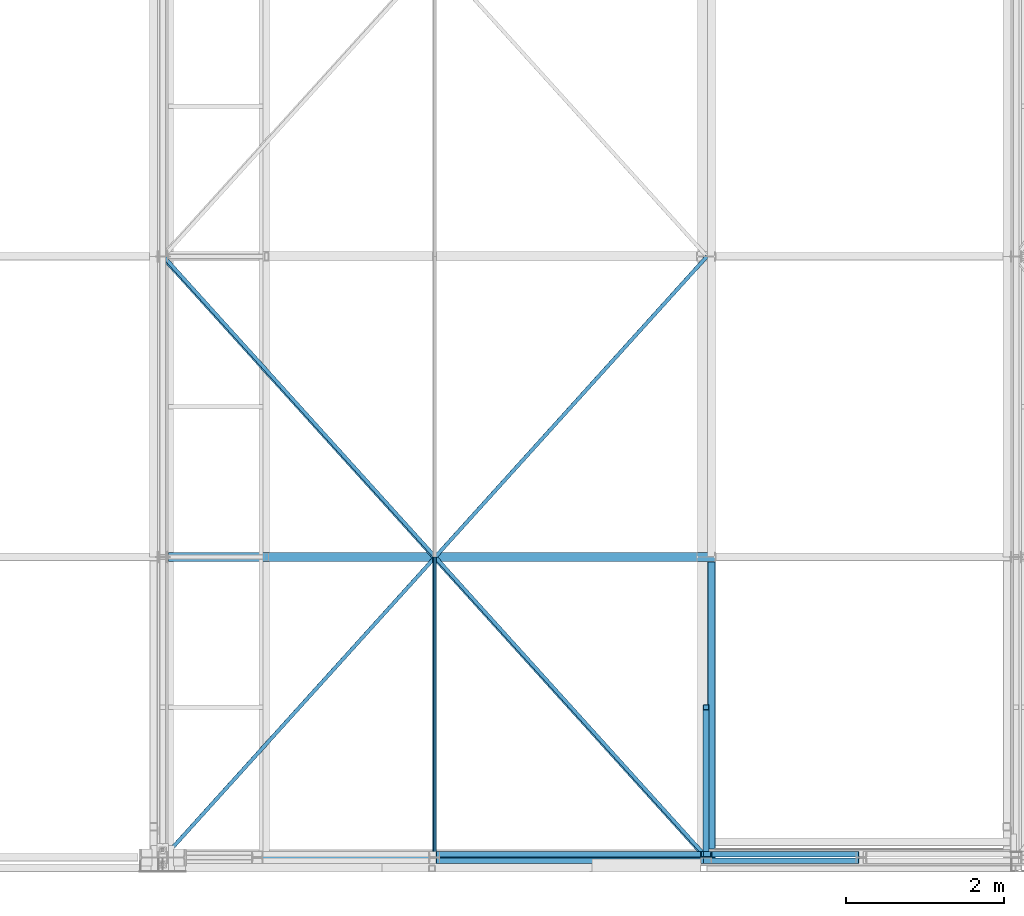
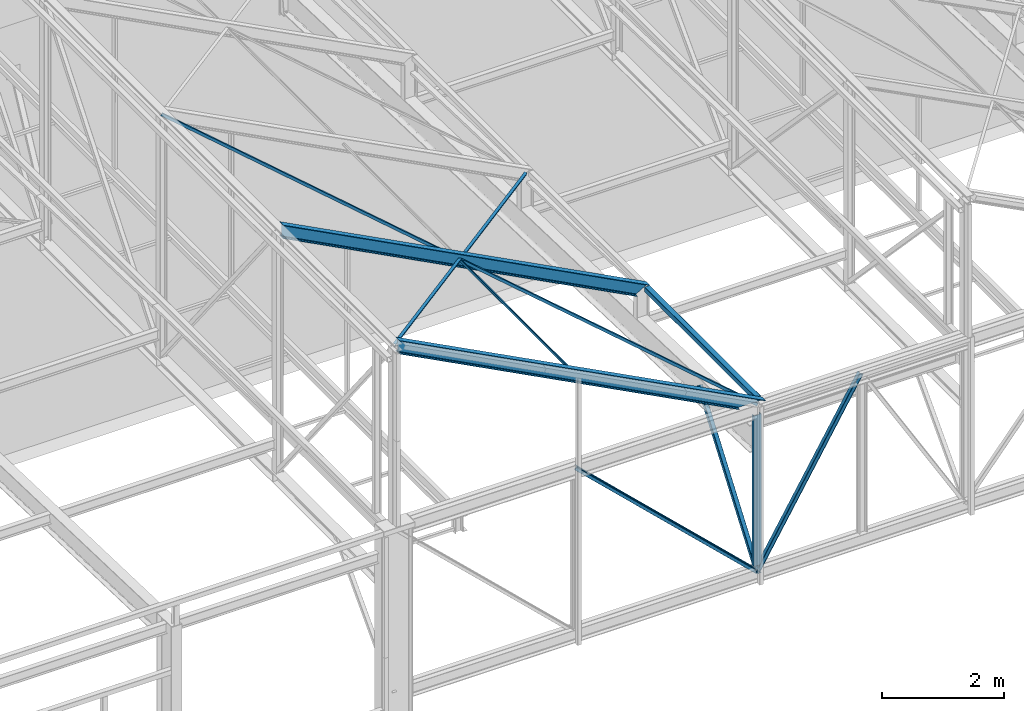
# One storey, part 29 of 123: 7 members, 5 beams, 12 elements without a shape of their own.
"""IFC2X3 building model written with IfcOpenShell, lengths in millimetres."""

from ifc_helpers import new_model, si_unit, frame, origin_with_axes, origin_2d_with_axis, place, context, subcontext, project, spatial, hollow_rectangle, i_section, l_section, u_section, extrude, clip, halfspace, material, type_object, element, aggregate, save


model = new_model("IFC2X3")

# Units and contexts
model_context = context("Model", 3, precision=1e-05, world=origin_with_axes())
body_context = subcontext(model_context, "Body", "Model", "MODEL_VIEW")
ifc_project = project(units=[si_unit("LENGTHUNIT", "METRE", prefix="MILLI"), si_unit("AREAUNIT", "SQUARE_METRE"), si_unit("VOLUMEUNIT", "CUBIC_METRE"), si_unit("MASSUNIT", "GRAM", prefix="KILO"), si_unit("TIMEUNIT", "SECOND"), si_unit("PLANEANGLEUNIT", "RADIAN"), si_unit("SOLIDANGLEUNIT", "STERADIAN"), si_unit("THERMODYNAMICTEMPERATUREUNIT", "DEGREE_CELSIUS"), si_unit("LUMINOUSINTENSITYUNIT", "LUMEN")], contexts=[model_context])

# Site, building, storey
site_placement = place(None, origin_with_axes())
site = spatial("IfcSite", under=ifc_project, at=site_placement, Name="Undefined", CompositionType="ELEMENT")
building_placement = place(site_placement, origin_with_axes())
building = spatial("IfcBuilding", under=site, at=building_placement, Name="Undefined", CompositionType="ELEMENT")
storey_placement = place(building_placement, origin_with_axes())
storey = spatial("IfcBuildingStorey", under=building, at=storey_placement, Name="Undefined", CompositionType="ELEMENT", Elevation=0.0)

# Assembly, member
assembly_1_placement = place(storey_placement, origin_with_axes())
assembly_1 = element("IfcElementAssembly", 1, at=assembly_1_placement, inside=storey, Name="Steel Assembly", AssemblyPlace="NOTDEFINED", PredefinedType="RIGID_FRAME")
ifc_material_1 = material(Name="STEEL/S235-E24")
member_type_1 = type_object("IfcMemberType", Name="L70*7", PredefinedType="NOTDEFINED")
member_1_placement = place(assembly_1_placement, frame((16114.9999999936, 40.0000000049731, 8409.99444626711), z_axis=(-0.690600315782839, 0.0, -0.723236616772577), x_axis=(0.723236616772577, 0.0, -0.690600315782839)))
member_1 = element("IfcMember", 2, at=member_1_placement, type_object=member_type_1, material=ifc_material_1, Name="DIAGONALE", ObjectType="L70*7", context=body_context, shape_type="SweptSolid", body=[
    extrude(l_section(Depth=70.0, Width=70.0, Thickness=7.0, FilletRadius=9.0, EdgeRadius=4.5, at=origin_2d_with_axis()), frame((4749.482977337, 0.0, 0.0), z_axis=(-1.0, 0.0, 0.0), x_axis=(0.0, -1.0, 0.0)), (0.0, 0.0, 1.0), 4749.5),
])
aggregate(assembly_1, [member_1])

assembly_2_placement = place(storey_placement, origin_with_axes())
assembly_2 = element("IfcElementAssembly", 3, at=assembly_2_placement, inside=storey, Name="Steel Assembly", AssemblyPlace="NOTDEFINED", PredefinedType="RIGID_FRAME")
member_2_placement = place(assembly_2_placement, frame((19550.0000008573, -40.0000000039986, 5129.99999911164), z_axis=(-0.690600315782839, 0.0, -0.723236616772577), x_axis=(-0.723236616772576, 0.0, 0.690600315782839)))
member_2 = element("IfcMember", 4, at=member_2_placement, type_object=member_type_1, material=ifc_material_1, Name="DIAGONALE", ObjectType="L70*7", context=body_context, shape_type="SweptSolid", body=[
    extrude(l_section(Depth=70.0, Width=70.0, Thickness=7.0, FilletRadius=9.0, EdgeRadius=4.5, at=origin_2d_with_axis()), frame((4749.482977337, 0.0, 0.0), z_axis=(-1.0, 0.0, 0.0), x_axis=(0.0, -1.0, 0.0)), (0.0, 0.0, 1.0), 4749.5),
])
aggregate(assembly_2, [member_2])

assembly_3_placement = place(storey_placement, origin_with_axes())
assembly_3 = element("IfcElementAssembly", 5, at=assembly_3_placement, inside=storey, Name="Steel Assembly", AssemblyPlace="NOTDEFINED", PredefinedType="RIGID_FRAME")
member_3_placement = place(assembly_3_placement, frame((19550.0000000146, 39.9999999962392, 5129.99999999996), z_axis=(0.858414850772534, 0.0, -0.512956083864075), x_axis=(0.512956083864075, 0.0, 0.858414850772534)))
member_3 = element("IfcMember", 6, at=member_3_placement, type_object=member_type_1, material=ifc_material_1, Name="DIAGONALE", ObjectType="L70*7", context=body_context, shape_type="SweptSolid", body=[
    extrude(l_section(Depth=70.0, Width=70.0, Thickness=7.0, FilletRadius=9.0, EdgeRadius=4.5, at=origin_2d_with_axis()), frame((3820.98986750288, 7.105427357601e-15, 0.0), z_axis=(-1.0, 0.0, 0.0), x_axis=(0.0, -1.0, 0.0)), (0.0, 0.0, 1.0), 3821.0),
])
aggregate(assembly_3, [member_3])

assembly_4_placement = place(storey_placement, origin_with_axes())
assembly_4 = element("IfcElementAssembly", 7, at=assembly_4_placement, inside=storey, Name="Steel Assembly", AssemblyPlace="NOTDEFINED", PredefinedType="RIGID_FRAME")
member_4_placement = place(assembly_4_placement, frame((21510.0000000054, -40.0000000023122, 8409.99444626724), z_axis=(0.858414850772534, 0.0, -0.512956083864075), x_axis=(-0.512956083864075, 0.0, -0.858414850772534)))
member_4 = element("IfcMember", 8, at=member_4_placement, type_object=member_type_1, material=ifc_material_1, Name="DIAGONALE", ObjectType="L70*7", context=body_context, shape_type="SweptSolid", body=[
    extrude(l_section(Depth=70.0, Width=70.0, Thickness=7.0, FilletRadius=9.0, EdgeRadius=4.5, at=origin_2d_with_axis()), frame((3820.98986750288, 7.105427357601e-15, 0.0), z_axis=(-1.0, 0.0, 0.0), x_axis=(0.0, -1.0, 0.0)), (0.0, 0.0, 1.0), 3821.0),
])
aggregate(assembly_4, [member_4])

# Assembly, beam
assembly_5_placement = place(storey_placement, origin_with_axes())
assembly_5 = element("IfcElementAssembly", 9, at=assembly_5_placement, inside=storey, Name="Steel Assembly", AssemblyPlace="NOTDEFINED", PredefinedType="RIGID_FRAME")
ifc_material_2 = material(Name="STEEL/S275-E28")
beam_type_1 = type_object("IfcBeamType", Name="UPN140", PredefinedType="NOTDEFINED")
beam_1_placement = place(assembly_5_placement, frame((19550.0, 35.0, 8269.99444626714), z_axis=(-1.0, 0.0, 0.0), x_axis=(0.0, 0.0, -1.0)))
beam_1 = element("IfcBeam", 10, at=beam_1_placement, type_object=beam_type_1, material=ifc_material_2, Name="MONTANT", ObjectType="UPN140", context=body_context, shape_type="SweptSolid", body=[
    extrude(u_section(Depth=140.0, FlangeWidth=60.0, WebThickness=7.0, FlangeThickness=10.0, FilletRadius=10.0, EdgeRadius=5.0, FlangeSlope=0.0798299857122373, at=origin_2d_with_axis()), frame((3009.99444626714, 0.0, 0.0), z_axis=(-1.0, 0.0, 0.0), x_axis=(0.0, -1.0, 0.0)), (0.0, 0.0, 1.0), 3010.0),
])
aggregate(assembly_5, [beam_1])

assembly_6_placement = place(storey_placement, origin_with_axes())
assembly_6 = element("IfcElementAssembly", 11, at=assembly_6_placement, inside=storey, Name="Steel Assembly", AssemblyPlace="NOTDEFINED", PredefinedType="RIGID_FRAME")
beam_type_2 = type_object("IfcBeamType", Name="TUBE-C-100*100*4", PredefinedType="NOTDEFINED")
beam_2_placement = place(assembly_6_placement, frame((19619.9999999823, 105.0, 8500.0), z_axis=(0.0, 0.0, 1.0), x_axis=(0.0, 1.0, 0.0)))
beam_2 = element("IfcBeam", 12, at=beam_2_placement, type_object=beam_type_2, material=ifc_material_1, Name="LISSE ACROTERE", ObjectType="TUBE-C-100*100*4", context=body_context, shape_type="SweptSolid", body=[
    extrude(hollow_rectangle(XDim=100.0, YDim=100.0, WallThickness=4.0, InnerFilletRadius=4.0, OuterFilletRadius=8.0, at=origin_2d_with_axis()), frame((3630.0, 0.0, 0.0), z_axis=(-1.0, 0.0, 0.0), x_axis=(0.0, -1.0, 0.0)), (0.0, 0.0, 1.0), 3630.0),
])
aggregate(assembly_6, [beam_2])

# Assembly, member
assembly_7_placement = place(storey_placement, origin_with_axes())
assembly_7 = element("IfcElementAssembly", 13, at=assembly_7_placement, inside=storey, Name="Steel Assembly", AssemblyPlace="NOTDEFINED", PredefinedType="RIGID_FRAME")
member_type_2 = type_object("IfcMemberType", Name="TUBE-C-80*80*4", PredefinedType="NOTDEFINED")
member_5_placement = place(assembly_7_placement, frame((19550.0, 1900.00000000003, 7715.15433175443), z_axis=(1.0, 0.0, 0.0), x_axis=(0.0, -0.592218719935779, -0.805777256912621)))
member_5 = element("IfcMember", 14, at=member_5_placement, type_object=member_type_2, material=ifc_material_1, Name="BUTON", ObjectType="TUBE-C-80*80*4", context=body_context, shape_type="SweptSolid", body=[
    extrude(hollow_rectangle(XDim=80.0, YDim=80.0, WallThickness=4.0, InnerFilletRadius=4.0, OuterFilletRadius=8.0, at=origin_2d_with_axis()), frame((3208.27413401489, 0.0, 0.0), z_axis=(-1.0, 0.0, 0.0), x_axis=(0.0, -1.0, 0.0)), (0.0, 0.0, 1.0), 3208.3),
])
aggregate(assembly_7, [member_5])

# Assembly, beam
assembly_8_placement = place(storey_placement, origin_with_axes())
assembly_8 = element("IfcElementAssembly", 15, at=assembly_8_placement, inside=storey, Name="Steel Assembly", AssemblyPlace="NOTDEFINED", PredefinedType="RIGID_FRAME")
beam_type_3 = type_object("IfcBeamType", Name="L50*5", PredefinedType="NOTDEFINED")
beam_3_placement = place(assembly_8_placement, frame((19549.9999964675, 7599.99999999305, 8477.34692832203), z_axis=(-0.620270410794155, 0.714128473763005, 0.324476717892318), x_axis=(-0.632776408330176, -0.70001465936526, 0.331018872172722)))
beam_3 = element("IfcBeam", 16, at=beam_3_placement, type_object=beam_type_3, material=ifc_material_1, Name="STABILITE CVT", ObjectType="L50*5", context=body_context, shape_type="SweptSolid", body=[
    extrude(l_section(Depth=50.0, Width=50.0, Thickness=5.0, FilletRadius=7.0, EdgeRadius=3.5, at=origin_2d_with_axis()), frame((10856.9154949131, 6.0267987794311e-13, 1.50669969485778e-13), z_axis=(-1.0, 0.0, 0.0), x_axis=(0.0, -1.0, 0.0)), (0.0, 0.0, 1.0), 10856.9),
])
aggregate(assembly_8, [beam_3])

assembly_9_placement = place(storey_placement, origin_with_axes())
assembly_9 = element("IfcElementAssembly", 17, at=assembly_9_placement, inside=storey, Name="Steel Assembly", AssemblyPlace="NOTDEFINED", PredefinedType="RIGID_FRAME")
beam_4_placement = place(assembly_9_placement, frame((19549.9999971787, -9.01309249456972e-09, 8477.34692793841), z_axis=(0.620270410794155, 0.714128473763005, -0.324476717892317), x_axis=(-0.632776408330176, 0.70001465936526, 0.331018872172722)))
beam_4 = element("IfcBeam", 18, at=beam_4_placement, type_object=beam_type_3, material=ifc_material_1, Name="STABILITE CVT", ObjectType="L50*5", context=body_context, shape_type="SweptSolid", body=[
    extrude(l_section(Depth=50.0, Width=50.0, Thickness=5.0, FilletRadius=7.0, EdgeRadius=3.5, at=origin_2d_with_axis()), frame((10856.9154949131, 6.0267987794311e-13, 1.50669969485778e-13), z_axis=(-1.0, 0.0, 0.0), x_axis=(0.0, -1.0, 0.0)), (0.0, 0.0, 1.0), 10856.9),
])
aggregate(assembly_9, [beam_4])

assembly_10_placement = place(storey_placement, origin_with_axes())
assembly_10 = element("IfcElementAssembly", 19, at=assembly_10_placement, inside=storey, Name="Steel Assembly", AssemblyPlace="NOTDEFINED", PredefinedType="RIGID_FRAME")
beam_type_4 = type_object("IfcBeamType", Name="TUBE-C-40*40*4", PredefinedType="NOTDEFINED")
beam_5_placement = place(assembly_10_placement, frame((16115.0000007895, 3800.00000000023, 10274.2688892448), z_axis=(-0.886082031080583, 0.0, 0.463528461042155), x_axis=(0.0, -1.0, 0.0)))
beam_5 = element("IfcBeam", 20, at=beam_5_placement, type_object=beam_type_4, material=ifc_material_1, Name="BUTON", ObjectType="TUBE-C-40*40*4", context=body_context, shape_type="SweptSolid", body=[
    extrude(hollow_rectangle(XDim=40.0, YDim=40.0, WallThickness=4.0, InnerFilletRadius=4.0, OuterFilletRadius=8.0, at=origin_2d_with_axis()), frame((3799.99999999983, 0.0, 0.0), z_axis=(-1.0, 0.0, 0.0), x_axis=(0.0, -1.0, 0.0)), (0.0, 0.0, 1.0), 3800.0),
])
aggregate(assembly_10, [beam_5])

# Assembly, member
assembly_11_placement = place(storey_placement, origin_with_axes())
assembly_11 = element("IfcElementAssembly", 21, at=assembly_11_placement, inside=storey, Name="Steel Assembly", AssemblyPlace="NOTDEFINED", PredefinedType="RIGID_FRAME")
member_type_3 = type_object("IfcMemberType", Name="IPE240", PredefinedType="NOTDEFINED")
member_6_placement = place(assembly_11_placement, frame((12694.3765846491, -3.18157252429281e-09, 12063.6701562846), z_axis=(0.463528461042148, -7.00000004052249e-09, 0.886082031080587), x_axis=(0.886082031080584, 0.0, -0.463528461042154)))
member_6 = element("IfcMember", 22, at=member_6_placement, type_object=member_type_3, material=ifc_material_2, Name="TRAVERSE SHED", ObjectType="IPE240", context=body_context, shape_type="Clipping", body=[
    clip(clip(extrude(i_section(OverallWidth=120.0, OverallDepth=240.0, WebThickness=6.199999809, FlangeThickness=9.800000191, FilletRadius=15.0, at=origin_2d_with_axis()), frame((7875.35692284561, 4.13590306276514e-25, 0.0), z_axis=(-1.0, 0.0, 0.0), x_axis=(0.0, -1.0, 0.0)), (0.0, 0.0, 1.0), 8107.7), halfspace(frame((7464.66719397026, 3.18157252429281e-09, -60.4734751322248), z_axis=(-0.463528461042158, 0.0, 0.886082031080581), x_axis=(0.0, -1.0, 0.0)), True)), halfspace(frame((0.0, 0.0, 120.0), z_axis=(-0.886082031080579, 0.0, -0.463528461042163), x_axis=(0.0, -1.0, 0.0)), False)),
])
aggregate(assembly_11, [member_6])

assembly_12_placement = place(storey_placement, origin_with_axes())
assembly_12 = element("IfcElementAssembly", 23, at=assembly_12_placement, inside=storey, Name="Steel Assembly", AssemblyPlace="NOTDEFINED", PredefinedType="RIGID_FRAME")
member_7_placement = place(assembly_12_placement, frame((12694.3765846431, 3799.99999999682, 12063.6701562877), z_axis=(0.463528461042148, -7.00000004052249e-09, 0.886082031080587), x_axis=(0.886082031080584, 0.0, -0.463528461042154)))
member_7 = element("IfcMember", 24, at=member_7_placement, type_object=member_type_3, material=ifc_material_2, Name="TRAVERSE SHED", ObjectType="IPE240", context=body_context, shape_type="Clipping", body=[
    clip(clip(extrude(i_section(OverallWidth=120.0, OverallDepth=240.0, WebThickness=6.199999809, FlangeThickness=9.800000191, FilletRadius=15.0, at=origin_2d_with_axis()), frame((7941.81660004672, 0.0, 4.40859382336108e-13), z_axis=(-1.0, 0.0, 0.0), x_axis=(0.0, -1.0, 0.0)), (0.0, 0.0, 1.0), 8083.9), halfspace(frame((7809.66068490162, 3.1814124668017e-09, 119.999998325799), z_axis=(-0.855432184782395, 0.0, 0.517914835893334), x_axis=(0.0, -1.0, 0.0)), True)), halfspace(frame((0.0, 0.0, 120.0), z_axis=(-0.886082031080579, 0.0, -0.463528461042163), x_axis=(0.0, -1.0, 0.0)), False)),
])
aggregate(assembly_12, [member_7])

save(model, "model.ifc")
